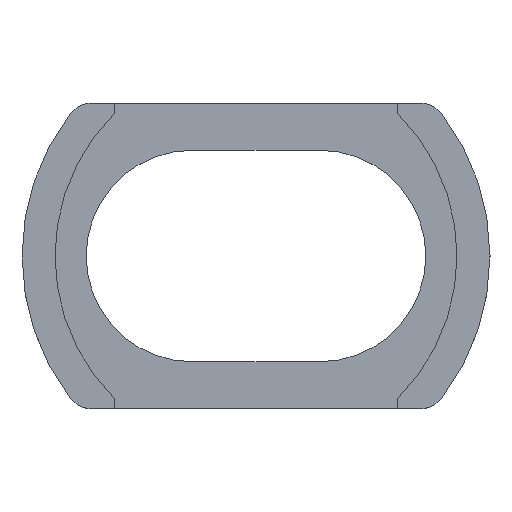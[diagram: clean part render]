
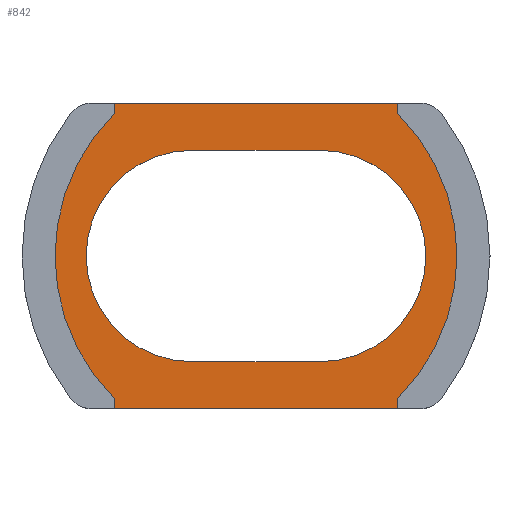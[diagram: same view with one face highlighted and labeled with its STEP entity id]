
A CAD part, top view. The second image highlights one B-rep face of the part: STEP entity #842.
In plain terms, the highlighted planar face has unit normal (0, 0, 1).
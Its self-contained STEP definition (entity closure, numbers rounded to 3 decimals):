
#292=CARTESIAN_POINT('Vertex',(3.4,5.6,-0.6)) ;
#295=CARTESIAN_POINT('Line Origine',(0.,5.6,-0.6)) ;
#299=CARTESIAN_POINT('Vertex',(-3.4,5.6,-0.6)) ;
#326=CARTESIAN_POINT('Axis2P3D Location',(-3.4,0.,-0.6)) ;
#330=CARTESIAN_POINT('Vertex',(-9.,0.,-0.6)) ;
#352=CARTESIAN_POINT('Axis2P3D Location',(-3.4,0.,-0.6)) ;
#356=CARTESIAN_POINT('Vertex',(-3.4,-5.6,-0.6)) ;
#380=CARTESIAN_POINT('Vertex',(3.4,-5.6,-0.6)) ;
#390=CARTESIAN_POINT('Line Origine',(0.,-5.6,-0.6)) ;
#575=CARTESIAN_POINT('Vertex',(7.5,-8.1,-0.6)) ;
#578=CARTESIAN_POINT('Line Origine',(0.,-8.1,-0.6)) ;
#582=CARTESIAN_POINT('Vertex',(-7.5,-8.1,-0.6)) ;
#612=CARTESIAN_POINT('Vertex',(7.5,8.1,-0.6)) ;
#638=CARTESIAN_POINT('Vertex',(-7.5,8.1,-0.6)) ;
#641=CARTESIAN_POINT('Line Origine',(0.,8.1,-0.6)) ;
#666=CARTESIAN_POINT('Vertex',(-7.5,-7.561,-0.6)) ;
#671=CARTESIAN_POINT('Axis2P3D Location',(0.,0.,-0.6)) ;
#675=CARTESIAN_POINT('Vertex',(-10.65,0.,-0.6)) ;
#703=CARTESIAN_POINT('Vertex',(-7.5,7.561,-0.6)) ;
#711=CARTESIAN_POINT('Axis2P3D Location',(0.,0.,-0.6)) ;
#755=CARTESIAN_POINT('Line Origine',(-7.5,-7.831,-0.6)) ;
#767=CARTESIAN_POINT('Line Origine',(-7.5,7.831,-0.6)) ;
#779=CARTESIAN_POINT('Axis2P3D Location',(0.,0.,-0.6)) ;
#784=CARTESIAN_POINT('Line Origine',(7.5,-7.831,-0.6)) ;
#788=CARTESIAN_POINT('Vertex',(7.5,-7.561,-0.6)) ;
#791=CARTESIAN_POINT('Axis2P3D Location',(0.,0.,-0.6)) ;
#795=CARTESIAN_POINT('Vertex',(10.65,0.,-0.6)) ;
#798=CARTESIAN_POINT('Axis2P3D Location',(0.,0.,-0.6)) ;
#802=CARTESIAN_POINT('Vertex',(7.5,7.561,-0.6)) ;
#805=CARTESIAN_POINT('Line Origine',(7.5,7.831,-0.6)) ;
#822=CARTESIAN_POINT('Axis2P3D Location',(3.4,0.,-0.6)) ;
#826=CARTESIAN_POINT('Vertex',(9.,0.,-0.6)) ;
#829=CARTESIAN_POINT('Axis2P3D Location',(3.4,0.,-0.6)) ;
#297=VECTOR('Line Direction',#296,1.) ;
#392=VECTOR('Line Direction',#391,1.) ;
#580=VECTOR('Line Direction',#579,1.) ;
#643=VECTOR('Line Direction',#642,1.) ;
#757=VECTOR('Line Direction',#756,1.) ;
#769=VECTOR('Line Direction',#768,1.) ;
#786=VECTOR('Line Direction',#785,1.) ;
#807=VECTOR('Line Direction',#806,1.) ;
#296=DIRECTION('Vector Direction',(1.,0.,0.)) ;
#327=DIRECTION('Axis2P3D Direction',(0.,0.,1.)) ;
#353=DIRECTION('Axis2P3D Direction',(0.,0.,1.)) ;
#391=DIRECTION('Vector Direction',(-1.,0.,0.)) ;
#579=DIRECTION('Vector Direction',(-1.,0.,0.)) ;
#642=DIRECTION('Vector Direction',(-1.,0.,0.)) ;
#672=DIRECTION('Axis2P3D Direction',(0.,0.,1.)) ;
#712=DIRECTION('Axis2P3D Direction',(0.,0.,1.)) ;
#756=DIRECTION('Vector Direction',(0.,1.,0.)) ;
#768=DIRECTION('Vector Direction',(0.,1.,0.)) ;
#780=DIRECTION('Axis2P3D Direction',(0.,0.,1.)) ;
#781=DIRECTION('Axis2P3D XDirection',(1.,0.,0.)) ;
#785=DIRECTION('Vector Direction',(0.,1.,0.)) ;
#792=DIRECTION('Axis2P3D Direction',(0.,0.,1.)) ;
#799=DIRECTION('Axis2P3D Direction',(0.,0.,1.)) ;
#806=DIRECTION('Vector Direction',(0.,1.,0.)) ;
#823=DIRECTION('Axis2P3D Direction',(0.,0.,1.)) ;
#830=DIRECTION('Axis2P3D Direction',(0.,0.,1.)) ;
#328=AXIS2_PLACEMENT_3D('Circle Axis2P3D',#326,#327,$) ;
#354=AXIS2_PLACEMENT_3D('Circle Axis2P3D',#352,#353,$) ;
#673=AXIS2_PLACEMENT_3D('Circle Axis2P3D',#671,#672,$) ;
#713=AXIS2_PLACEMENT_3D('Circle Axis2P3D',#711,#712,$) ;
#782=AXIS2_PLACEMENT_3D('Plane Axis2P3D',#779,#780,#781) ;
#793=AXIS2_PLACEMENT_3D('Circle Axis2P3D',#791,#792,$) ;
#800=AXIS2_PLACEMENT_3D('Circle Axis2P3D',#798,#799,$) ;
#824=AXIS2_PLACEMENT_3D('Circle Axis2P3D',#822,#823,$) ;
#831=AXIS2_PLACEMENT_3D('Circle Axis2P3D',#829,#830,$) ;
#298=LINE('Line',#295,#297) ;
#393=LINE('Line',#390,#392) ;
#581=LINE('Line',#578,#580) ;
#644=LINE('Line',#641,#643) ;
#758=LINE('Line',#755,#757) ;
#770=LINE('Line',#767,#769) ;
#787=LINE('Line',#784,#786) ;
#808=LINE('Line',#805,#807) ;
#329=CIRCLE('generated circle',#328,5.6) ;
#355=CIRCLE('generated circle',#354,5.6) ;
#674=CIRCLE('generated circle',#673,10.65) ;
#714=CIRCLE('generated circle',#713,10.65) ;
#794=CIRCLE('generated circle',#793,10.65) ;
#801=CIRCLE('generated circle',#800,10.65) ;
#825=CIRCLE('generated circle',#824,5.6) ;
#832=CIRCLE('generated circle',#831,5.6) ;
#783=PLANE('',#782) ;
#841=FACE_BOUND('',#834,.T.) ;
#301=EDGE_CURVE('',#293,#300,#298,.F.) ;
#332=EDGE_CURVE('',#300,#331,#329,.T.) ;
#358=EDGE_CURVE('',#331,#357,#355,.T.) ;
#394=EDGE_CURVE('',#357,#381,#393,.F.) ;
#584=EDGE_CURVE('',#583,#576,#581,.F.) ;
#645=EDGE_CURVE('',#639,#613,#644,.F.) ;
#677=EDGE_CURVE('',#676,#667,#674,.T.) ;
#715=EDGE_CURVE('',#704,#676,#714,.T.) ;
#759=EDGE_CURVE('',#667,#583,#758,.F.) ;
#771=EDGE_CURVE('',#639,#704,#770,.F.) ;
#790=EDGE_CURVE('',#789,#576,#787,.F.) ;
#797=EDGE_CURVE('',#796,#789,#794,.F.) ;
#804=EDGE_CURVE('',#803,#796,#801,.F.) ;
#809=EDGE_CURVE('',#613,#803,#808,.F.) ;
#828=EDGE_CURVE('',#293,#827,#825,.F.) ;
#833=EDGE_CURVE('',#827,#381,#832,.F.) ;
#811=ORIENTED_EDGE('',*,*,#645,.F.) ;
#812=ORIENTED_EDGE('',*,*,#771,.T.) ;
#813=ORIENTED_EDGE('',*,*,#715,.T.) ;
#814=ORIENTED_EDGE('',*,*,#677,.T.) ;
#815=ORIENTED_EDGE('',*,*,#759,.T.) ;
#816=ORIENTED_EDGE('',*,*,#584,.T.) ;
#817=ORIENTED_EDGE('',*,*,#790,.F.) ;
#818=ORIENTED_EDGE('',*,*,#797,.F.) ;
#819=ORIENTED_EDGE('',*,*,#804,.F.) ;
#820=ORIENTED_EDGE('',*,*,#809,.F.) ;
#835=ORIENTED_EDGE('',*,*,#332,.F.) ;
#836=ORIENTED_EDGE('',*,*,#301,.F.) ;
#837=ORIENTED_EDGE('',*,*,#828,.T.) ;
#838=ORIENTED_EDGE('',*,*,#833,.T.) ;
#839=ORIENTED_EDGE('',*,*,#394,.F.) ;
#840=ORIENTED_EDGE('',*,*,#358,.F.) ;
#810=EDGE_LOOP('',(#811,#812,#813,#814,#815,#816,#817,#818,#819,#820)) ;
#834=EDGE_LOOP('',(#835,#836,#837,#838,#839,#840)) ;
#293=VERTEX_POINT('',#292) ;
#300=VERTEX_POINT('',#299) ;
#331=VERTEX_POINT('',#330) ;
#357=VERTEX_POINT('',#356) ;
#381=VERTEX_POINT('',#380) ;
#576=VERTEX_POINT('',#575) ;
#583=VERTEX_POINT('',#582) ;
#613=VERTEX_POINT('',#612) ;
#639=VERTEX_POINT('',#638) ;
#667=VERTEX_POINT('',#666) ;
#676=VERTEX_POINT('',#675) ;
#704=VERTEX_POINT('',#703) ;
#789=VERTEX_POINT('',#788) ;
#796=VERTEX_POINT('',#795) ;
#803=VERTEX_POINT('',#802) ;
#827=VERTEX_POINT('',#826) ;
#842=ADVANCED_FACE('\X2\FF8AFF9FFF70FF82\X0\ \X2\FF8EFF9EFF83FF9EFF68FF70\X0\',(#821,#841),#783,.T.) ;
#821=FACE_OUTER_BOUND('',#810,.T.) ;
